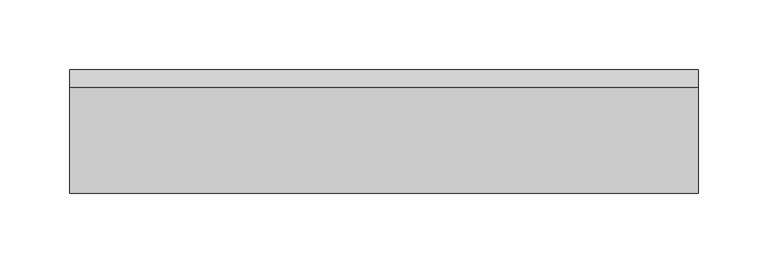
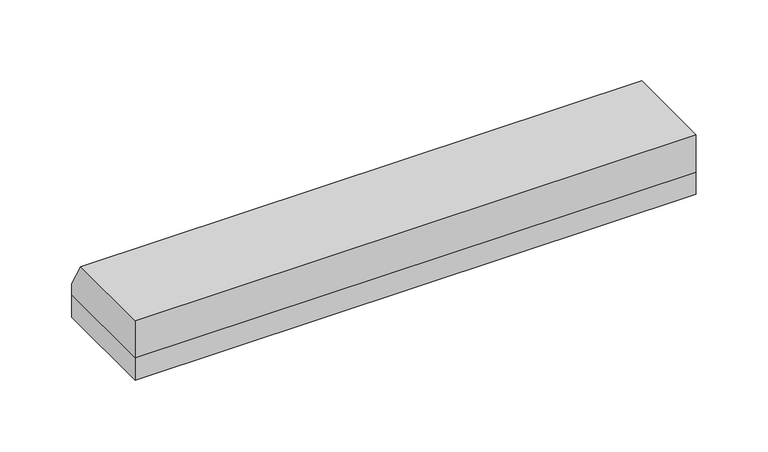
"""IFC4 building model written with IfcOpenShell, lengths in millimetres: proxy geometry, Spinneybeck_ARO Plank 7 : A - 5’-6”  x 3 1/2” x 1 1/4”."""

from ifc_helpers import new_model, si_unit, frame, origin, origin_with_axes, place, context, project, spatial, polyline, outline, extrude, source, transform, mapped, element, save


def specialty_equipment_fa3eccf0(model_context):
    return source(origin(), model_context, "Body", "SweptSolid", [
        extrude(outline(polyline([(44.45, 19.05), (-44.45, 19.05), (-44.45, 50.8), (31.4559581, 50.8), (44.45, 28.2936592), (44.45, 19.05)])), frame((-226.2423973, 0.0, 0.0), z_axis=(1.0, 0.0, 0.0), x_axis=(0.0, 1.0, 0.0)), (0.0, 0.0, 1.0), 452.4847946),
        extrude(outline(polyline([(-226.2423973, -44.45), (-226.2423973, 44.45), (226.2423973, 44.45), (226.2423973, -44.45), (-226.2423973, -44.45)])), origin_with_axes(), (0.0, 0.0, 1.0), 19.05),
    ])


if __name__ == "__main__":
    model = new_model("IFC4")
    model_context = context("Model", 3, world=origin())
    ifc_project = project(units=[si_unit("LENGTHUNIT", "METRE", prefix="MILLI")], contexts=[model_context])
    site = spatial("IfcSite", under=ifc_project)
    building = spatial("IfcBuilding", under=site)
    placement = place(None, origin())
    specialty_equipment_shape = specialty_equipment_fa3eccf0(model_context)
    element("IfcBuildingElementProxy", 1, Name="Spinneybeck_ARO Plank 7 : A - 5’-6”  x 3 1/2” x 1 1/4”", ObjectType="Spinneybeck_ARO Plank 7 : A - 5’-6”  x 3 1/2” x 1 1/4”", at=placement, inside=building, context=model_context, shape_type="MappedRepresentation", body=[
        mapped(specialty_equipment_shape, transform((0.0, 0.0, 0.0), x_axis=(1.0, 0.0, 0.0), y_axis=(0.0, 1.0, 0.0), z_axis=(0.0, 0.0, 1.0))),
    ])
    save(model, "model.ifc")
